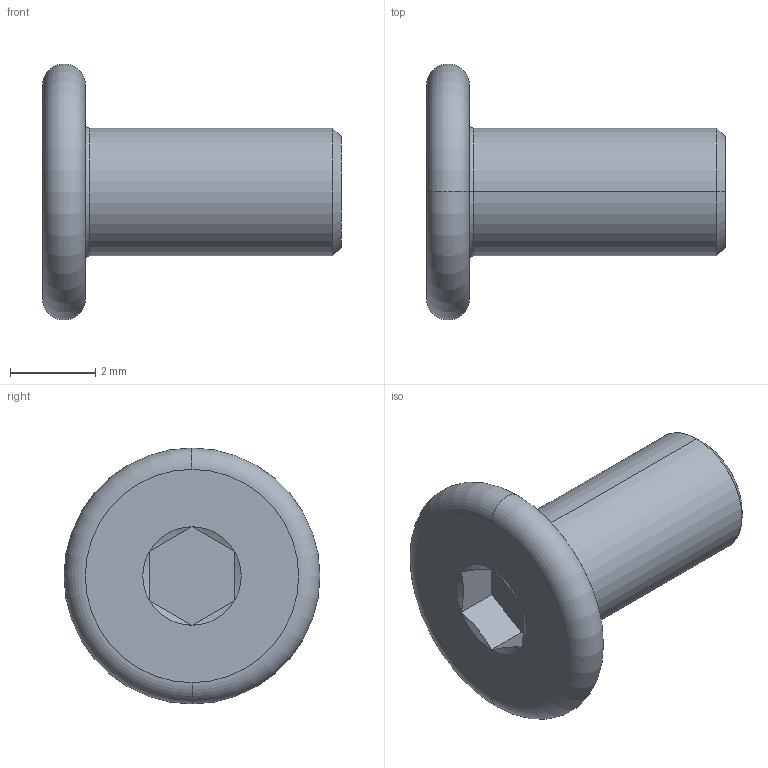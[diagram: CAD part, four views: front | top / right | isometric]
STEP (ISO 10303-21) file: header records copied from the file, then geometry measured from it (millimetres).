
FILE_DESCRIPTION (( 'STEP AP203' ), '1' );
FILE_NAME ('LGD-304M-M3x6.STEP', '2026-08-13T09:28:30', ( '' ), ( '' ), 'SwSTEP 2.0', 'SolidWorks 2020', '' );
FILE_SCHEMA (( 'CONFIG_CONTROL_DESIGN' ));
Length unit declared in the file: millimetre
Products named in the file (1): LGD-304M-M3x6
Bounding box: 7 x 6 x 6 mm (x, y, z)
Volume: 65.1 mm3; surface area: 128.8 mm2
Topology: 1 solids, 1 shells, 24 faces, 44 edges, 24 vertices
Faces by surface type: plane 10, cone 8, torus 4, cylinder 2
Entity records: 677 total; most frequent: CARTESIAN_POINT 123, DIRECTION 110, ORIENTED_EDGE 88, AXIS2_PLACEMENT_3D 47, EDGE_CURVE 44, EDGE_LOOP 26, VERTEX_POINT 24, ADVANCED_FACE 24
